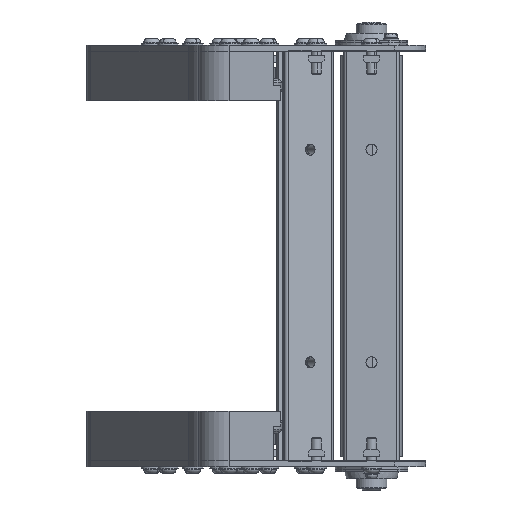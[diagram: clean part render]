
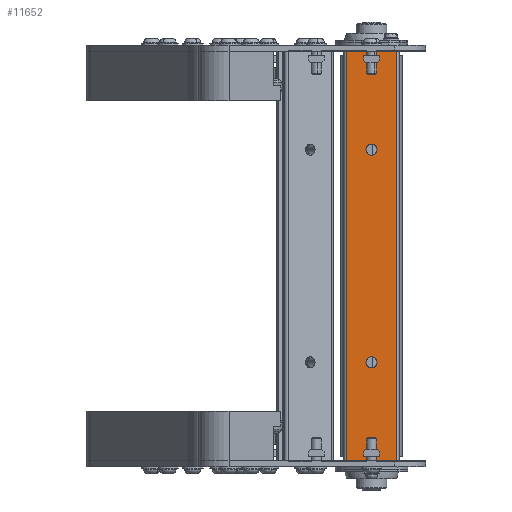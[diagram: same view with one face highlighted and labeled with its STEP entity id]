
A CAD part, left-side view. The second image highlights one B-rep face of the part: STEP entity #11652.
In plain terms, the highlighted planar face has unit normal (-1, 0, 0) as drawn and (0, 0, -1) by its records, which use the part's own axes.
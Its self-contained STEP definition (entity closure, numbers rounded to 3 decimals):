
#24 = DIRECTION ( 'NONE',  ( 0., 1., 0. ) ) ;
#373 = EDGE_LOOP ( 'NONE', ( #6820, #14482 ) ) ;
#586 = DIRECTION ( 'NONE',  ( 0., 0., 1. ) ) ;
#1102 = CARTESIAN_POINT ( 'NONE',  ( 166.5, 20., -9.25 ) ) ;
#1297 = EDGE_LOOP ( 'NONE', ( #20618, #21319 ) ) ;
#1901 = EDGE_CURVE ( 'NONE', #5504, #15306, #22386, .T. ) ;
#2324 = CARTESIAN_POINT ( 'NONE',  ( 166.5, 20., -9.25 ) ) ;
#2835 = EDGE_CURVE ( 'NONE', #6088, #17354, #21803, .T. ) ;
#3008 = CARTESIAN_POINT ( 'NONE',  ( -166.5, -20., -9.25 ) ) ;
#3103 = DIRECTION ( 'NONE',  ( 0., 1., 0. ) ) ;
#3850 = LINE ( 'NONE', #12074, #13474 ) ;
#4119 = AXIS2_PLACEMENT_3D ( 'NONE', #14615, #5706, #14473 ) ;
#4229 = DIRECTION ( 'NONE',  ( 0., -1., 0. ) ) ;
#4293 = ORIENTED_EDGE ( 'NONE', *, *, #11926, .T. ) ;
#4547 = AXIS2_PLACEMENT_3D ( 'NONE', #18226, #9540, #19924 ) ;
#4785 = EDGE_CURVE ( 'NONE', #7648, #12312, #20071, .T. ) ;
#4870 = VECTOR ( 'NONE', #24, 1000. ) ;
#5305 = CARTESIAN_POINT ( 'NONE',  ( 86.5, 0., -9.25 ) ) ;
#5504 = VERTEX_POINT ( 'NONE', #15398 ) ;
#5591 = EDGE_CURVE ( 'NONE', #10436, #10139, #15614, .T. ) ;
#5706 = DIRECTION ( 'NONE',  ( 0., 0., 1. ) ) ;
#6088 = VERTEX_POINT ( 'NONE', #11833 ) ;
#6413 = EDGE_CURVE ( 'NONE', #15306, #5504, #21134, .T. ) ;
#6586 = FACE_BOUND ( 'NONE', #373, .T. ) ;
#6820 = ORIENTED_EDGE ( 'NONE', *, *, #1901, .T. ) ;
#7250 = AXIS2_PLACEMENT_3D ( 'NONE', #17150, #10108, #22450 ) ;
#7648 = VERTEX_POINT ( 'NONE', #3008 ) ;
#7921 = ORIENTED_EDGE ( 'NONE', *, *, #4785, .T. ) ;
#8499 = CARTESIAN_POINT ( 'NONE',  ( 91., 0., -9.25 ) ) ;
#8652 = ORIENTED_EDGE ( 'NONE', *, *, #22434, .F. ) ;
#8891 = DIRECTION ( 'NONE',  ( -1., 0., 0. ) ) ;
#9540 = DIRECTION ( 'NONE',  ( 0., 0., 1. ) ) ;
#9868 = LINE ( 'NONE', #15358, #15413 ) ;
#10108 = DIRECTION ( 'NONE',  ( 0., 0., 1. ) ) ;
#10139 = VERTEX_POINT ( 'NONE', #1102 ) ;
#10436 = VERTEX_POINT ( 'NONE', #16278 ) ;
#11652 = ADVANCED_FACE ( 'NONE', ( #6586, #18761, #19872 ), #14786, .F. ) ;
#11833 = CARTESIAN_POINT ( 'NONE',  ( 82., 0., -9.25 ) ) ;
#11926 = EDGE_CURVE ( 'NONE', #10436, #7648, #9868, .T. ) ;
#12074 = CARTESIAN_POINT ( 'NONE',  ( 166.5, 20., -9.25 ) ) ;
#12129 = CARTESIAN_POINT ( 'NONE',  ( -166.5, 20., -9.25 ) ) ;
#12266 = AXIS2_PLACEMENT_3D ( 'NONE', #5305, #586, #18165 ) ;
#12312 = VERTEX_POINT ( 'NONE', #12129 ) ;
#13132 = ORIENTED_EDGE ( 'NONE', *, *, #5591, .F. ) ;
#13423 = VECTOR ( 'NONE', #3103, 1000. ) ;
#13474 = VECTOR ( 'NONE', #8891, 1000. ) ;
#14473 = DIRECTION ( 'NONE',  ( 1., 0., 0. ) ) ;
#14482 = ORIENTED_EDGE ( 'NONE', *, *, #6413, .T. ) ;
#14615 = CARTESIAN_POINT ( 'NONE',  ( -86.5, 0., -9.25 ) ) ;
#14786 = PLANE ( 'NONE',  #17247 ) ;
#15272 = DIRECTION ( 'NONE',  ( -1., 0., 0. ) ) ;
#15306 = VERTEX_POINT ( 'NONE', #21285 ) ;
#15358 = CARTESIAN_POINT ( 'NONE',  ( 166.5, -20., -9.25 ) ) ;
#15398 = CARTESIAN_POINT ( 'NONE',  ( -82., 0., -9.25 ) ) ;
#15413 = VECTOR ( 'NONE', #15272, 1000. ) ;
#15614 = LINE ( 'NONE', #15870, #4870 ) ;
#15870 = CARTESIAN_POINT ( 'NONE',  ( 166.5, 20., -9.25 ) ) ;
#16278 = CARTESIAN_POINT ( 'NONE',  ( 166.5, -20., -9.25 ) ) ;
#17150 = CARTESIAN_POINT ( 'NONE',  ( -86.5, 0., -9.25 ) ) ;
#17247 = AXIS2_PLACEMENT_3D ( 'NONE', #2324, #21673, #4229 ) ;
#17354 = VERTEX_POINT ( 'NONE', #8499 ) ;
#17662 = EDGE_LOOP ( 'NONE', ( #7921, #8652, #13132, #4293 ) ) ;
#17779 = EDGE_CURVE ( 'NONE', #17354, #6088, #20339, .T. ) ;
#18165 = DIRECTION ( 'NONE',  ( 1., 0., 0. ) ) ;
#18226 = CARTESIAN_POINT ( 'NONE',  ( 86.5, 0., -9.25 ) ) ;
#18761 = FACE_BOUND ( 'NONE', #1297, .T. ) ;
#18937 = CARTESIAN_POINT ( 'NONE',  ( -166.5, 20., -9.25 ) ) ;
#19872 = FACE_OUTER_BOUND ( 'NONE', #17662, .T. ) ;
#19924 = DIRECTION ( 'NONE',  ( 1., 0., 0. ) ) ;
#20071 = LINE ( 'NONE', #18937, #13423 ) ;
#20339 = CIRCLE ( 'NONE', #4547, 4.5 ) ;
#20618 = ORIENTED_EDGE ( 'NONE', *, *, #17779, .T. ) ;
#21134 = CIRCLE ( 'NONE', #7250, 4.5 ) ;
#21285 = CARTESIAN_POINT ( 'NONE',  ( -91., 0., -9.25 ) ) ;
#21319 = ORIENTED_EDGE ( 'NONE', *, *, #2835, .T. ) ;
#21673 = DIRECTION ( 'NONE',  ( 0., 0., 1. ) ) ;
#21803 = CIRCLE ( 'NONE', #12266, 4.5 ) ;
#22386 = CIRCLE ( 'NONE', #4119, 4.5 ) ;
#22434 = EDGE_CURVE ( 'NONE', #10139, #12312, #3850, .T. ) ;
#22450 = DIRECTION ( 'NONE',  ( 1., 0., 0. ) ) ;
